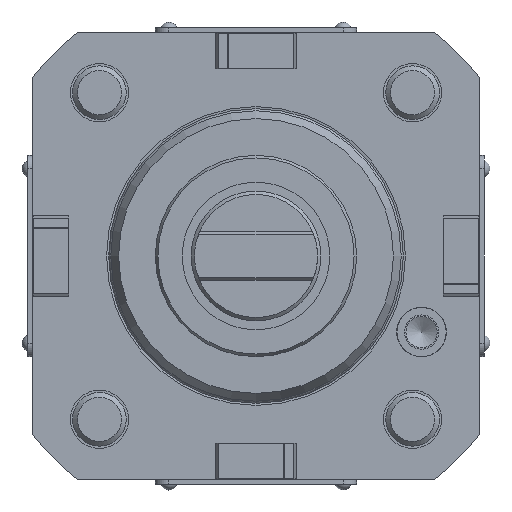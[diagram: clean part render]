
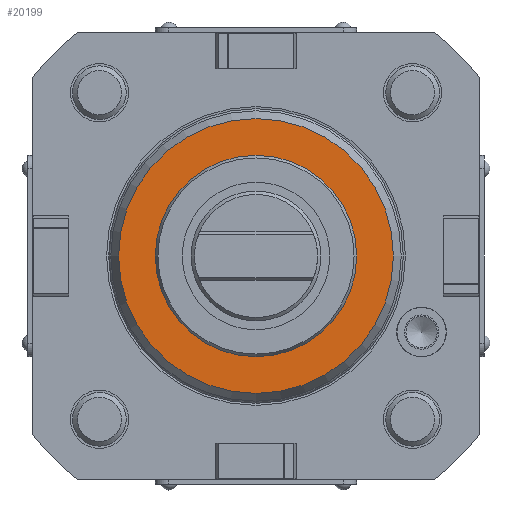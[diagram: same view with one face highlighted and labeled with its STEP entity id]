
A CAD part, left-side view. The second image highlights one B-rep face of the part: STEP entity #20199.
In plain terms, the highlighted planar face has unit normal (-1, 0, 0).
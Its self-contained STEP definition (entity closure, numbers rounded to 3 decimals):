
#10181=ORIENTED_EDGE('',*,*,#12479,.F.);
#10182=ORIENTED_EDGE('',*,*,#12478,.T.);
#11622=CIRCLE('',#19209,22.5);
#11623=CIRCLE('',#19211,30.718);
#11933=VERTEX_POINT('',#16371);
#11934=VERTEX_POINT('',#16374);
#12478=EDGE_CURVE('',#11933,#11933,#11622,.T.);
#12479=EDGE_CURVE('',#11934,#11934,#11623,.T.);
#13206=EDGE_LOOP('',(#10181));
#13207=EDGE_LOOP('',(#10182));
#13837=FACE_BOUND('',#13206,.T.);
#13838=FACE_BOUND('',#13207,.T.);
#14487=DIRECTION('',(1.,0.,0.));
#14488=DIRECTION('',(0.,0.,22.5));
#14489=DIRECTION('',(-1.,0.,0.));
#14490=DIRECTION('',(0.,1.,0.));
#14491=DIRECTION('',(1.,0.,0.));
#14492=DIRECTION('',(0.,0.,-30.718));
#16371=CARTESIAN_POINT('',(-32.,0.,22.5));
#16372=CARTESIAN_POINT('',(-32.,0.,0.));
#16373=CARTESIAN_POINT('',(-32.,0.,-30.718));
#16374=CARTESIAN_POINT('',(-32.,0.,-30.718));
#16375=CARTESIAN_POINT('',(-32.,0.,0.));
#19209=AXIS2_PLACEMENT_3D('',#16372,#14487,#14488);
#19210=AXIS2_PLACEMENT_3D('',#16373,#14489,#14490);
#19211=AXIS2_PLACEMENT_3D('',#16375,#14491,#14492);
#19964=PLANE('',#19210);
#20199=ADVANCED_FACE('',(#13837,#13838),#19964,.T.);
